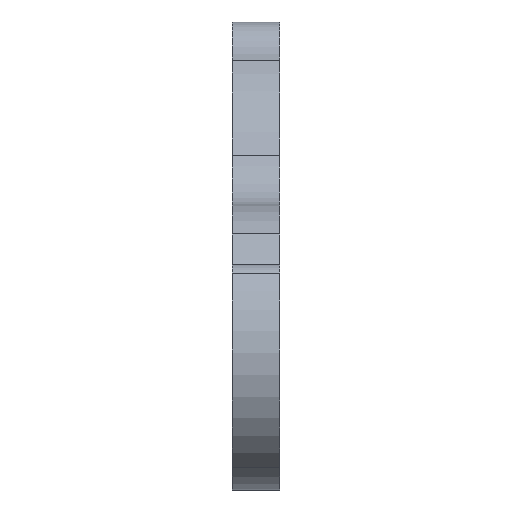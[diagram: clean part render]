
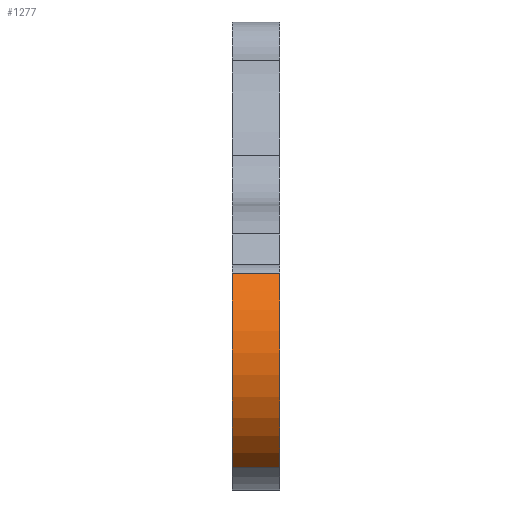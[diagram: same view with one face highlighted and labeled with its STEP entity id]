
A CAD part, left-side view. The second image highlights one B-rep face of the part: STEP entity #1277.
In plain terms, the highlighted cylindrical face has radius 11.008 mm (diameter 22.015 mm), a partial arc.
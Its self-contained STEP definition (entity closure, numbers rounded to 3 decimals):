
#86=FACE_OUTER_BOUND('',#160,.T.);
#160=EDGE_LOOP('',(#1042,#1043,#1044,#1045));
#184=LINE('',#1973,#255);
#237=LINE('',#2297,#308);
#255=VECTOR('',#1519,5.);
#308=VECTOR('',#1890,0.25);
#359=CIRCLE('',#1350,11.008);
#437=CIRCLE('',#1478,11.008);
#450=VERTEX_POINT('',#1966);
#453=VERTEX_POINT('',#1971);
#487=VERTEX_POINT('',#2041);
#565=VERTEX_POINT('',#2295);
#584=EDGE_CURVE('',#453,#450,#184,.T.);
#619=EDGE_CURVE('',#453,#487,#359,.T.);
#746=EDGE_CURVE('',#487,#565,#237,.T.);
#747=EDGE_CURVE('',#450,#565,#437,.T.);
#1042=ORIENTED_EDGE('',*,*,#584,.F.);
#1043=ORIENTED_EDGE('',*,*,#619,.T.);
#1044=ORIENTED_EDGE('',*,*,#746,.T.);
#1045=ORIENTED_EDGE('',*,*,#747,.F.);
#1214=CYLINDRICAL_SURFACE('',#1477,11.008);
#1277=ADVANCED_FACE('',(#86),#1214,.T.);
#1350=AXIS2_PLACEMENT_3D('',#2043,#1587,#1588);
#1477=AXIS2_PLACEMENT_3D('',#2298,#1891,#1892);
#1478=AXIS2_PLACEMENT_3D('',#2299,#1893,#1894);
#1519=DIRECTION('',(0.,1.,0.));
#1587=DIRECTION('center_axis',(0.,1.,0.));
#1588=DIRECTION('ref_axis',(-0.568,0.,-0.823));
#1890=DIRECTION('',(0.,1.,0.));
#1891=DIRECTION('center_axis',(0.,1.,0.));
#1892=DIRECTION('ref_axis',(-0.568,0.,-0.823));
#1893=DIRECTION('center_axis',(0.,1.,0.));
#1894=DIRECTION('ref_axis',(-0.568,0.,-0.823));
#1966=CARTESIAN_POINT('',(-302.542,112.3,524.311));
#1971=CARTESIAN_POINT('',(-302.542,108.3,524.311));
#1973=CARTESIAN_POINT('',(-302.542,108.3,524.311));
#2041=CARTESIAN_POINT('',(-304.389,108.3,540.817));
#2043=CARTESIAN_POINT('Origin',(-296.286,108.3,533.368));
#2295=CARTESIAN_POINT('',(-304.389,112.3,540.817));
#2297=CARTESIAN_POINT('',(-304.389,108.3,540.817));
#2298=CARTESIAN_POINT('Origin',(-296.286,108.3,533.368));
#2299=CARTESIAN_POINT('Origin',(-296.286,112.3,533.368));
